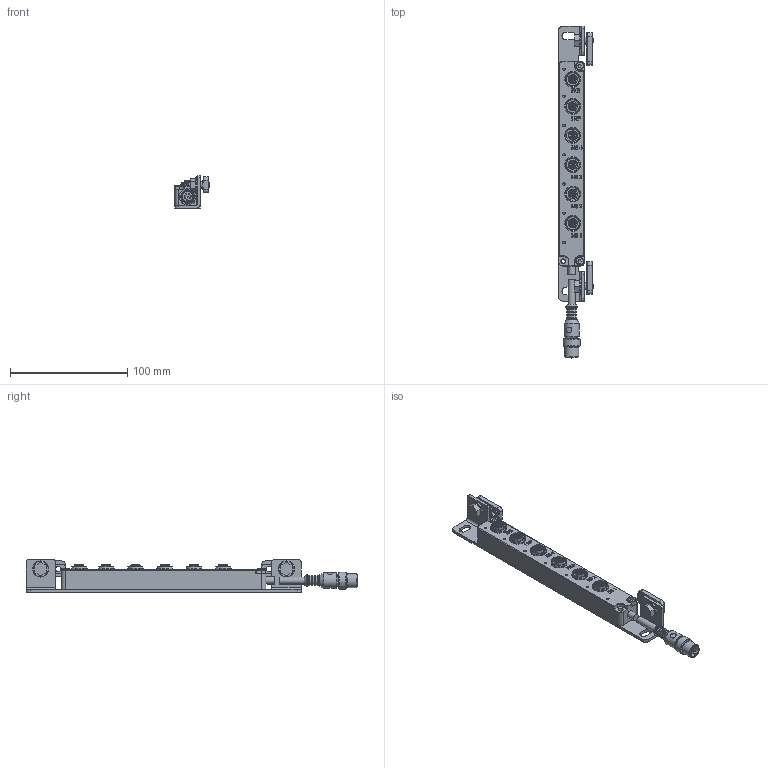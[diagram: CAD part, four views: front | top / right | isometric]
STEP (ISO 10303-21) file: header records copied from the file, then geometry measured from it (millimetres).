
FILE_DESCRIPTION((''),'2;1');
FILE_NAME('\\leuze.de\dfs01\Germering\cam\INVENTORjob\Konstruktion\520145_AC-SCM7U-BT-L.stp','2020-08-07T09:46:16',('phaberl'),(''),'Autodesk Inventor 2009','Autodesk Inventor 2009','');
FILE_SCHEMA(('AUTOMOTIVE_DESIGN { 1 0 10303 214 1 1 1 1 }'));
Length unit declared in the file: millimetre
Products named in the file (6): 520145_AC-SCM7U-BT-L; 347033_01_Winkel AC-SCM8; 150027_SCM7U; NUTENSTEIN-M6_vereinfacht; DIN 912 - ersetzt durch DIN EN ISO 4762 M4 x 16; 101899 Schraube-Sperrzahn M6x10
Assembly tree (8 placements, depth 2):
  520145_AC-SCM7U-BT-L
    347033_01_Winkel AC-SCM8
    150027_SCM7U
    NUTENSTEIN-M6_vereinfacht  x2
    DIN 912 - ersetzt durch DIN EN ISO 4762 M4 x 16  x2
    101899 Schraube-Sperrzahn M6x10  x2
Bounding box: 29.5 x 283.58 x 28 mm (x, y, z)
Volume: 91025.5 mm3; surface area: 39398.7 mm2
Topology: 9 solids, 9 shells, 2198 faces, 6394 edges, 4384 vertices
Faces by surface type: plane 950, cylinder 542, bspline 480, cone 201, sphere 13, torus 12
Full cylindrical faces by diameter (mm): 0.8 x8, 1.2 x24, 3.242 x4, 4 x2, 4.2 x3, 4.65 x2, 5.55 x2, 6 x3, 6.2 x1, 7 x2, 7.5 x2, 8 x1, 8.5 x4, 9 x1, 10 x1, 10.8 x1, 10.9 x6, 11.25 x1, 12 x1, 12.2 x6, 13 x1, 13.6 x6, 13.8 x2, 14.25 x2, 14.5 x1
Entity records: 88609 total; most frequent: CARTESIAN_POINT 35030, ORIENTED_EDGE 12068, DIRECTION 9685, EDGE_CURVE 6034, VERTEX_POINT 4249, AXIS2_PLACEMENT_3D 3757, EDGE_LOOP 2527, VECTOR 2171
